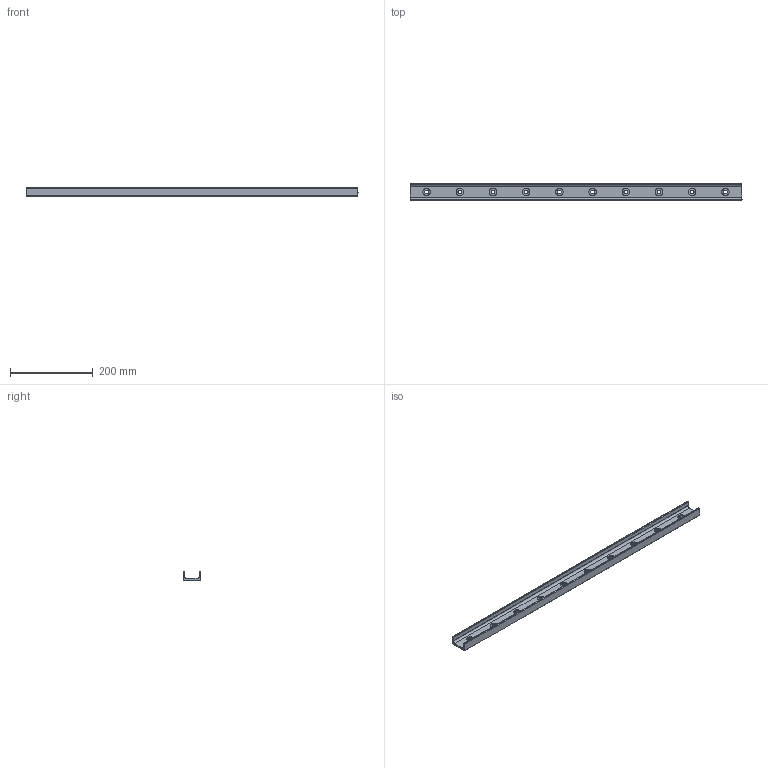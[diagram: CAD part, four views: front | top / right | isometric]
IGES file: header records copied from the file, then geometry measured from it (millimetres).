
Start section: SolidWorks IGES file using analytic representation for surfaces
Global section: file name: C:\Users\IanO\Desktop\43\L1943.ULC43_v2_20180121_IGES\L1943.ULC43-0800.igs; native system: SolidWorks 2017; preprocessor: SolidWorks 2017; author: IanO; date: 190121.084603; units: millimetre
Bounding box: 800 x 43 x 21 mm (x, y, z)
Surface area: 125929.9 mm2 (no closed solid volume)
Topology: 0 solids, 0 shells, 76 faces, 1734 edges, 1734 vertices
Faces by surface type: revolution 53, bspline 23
